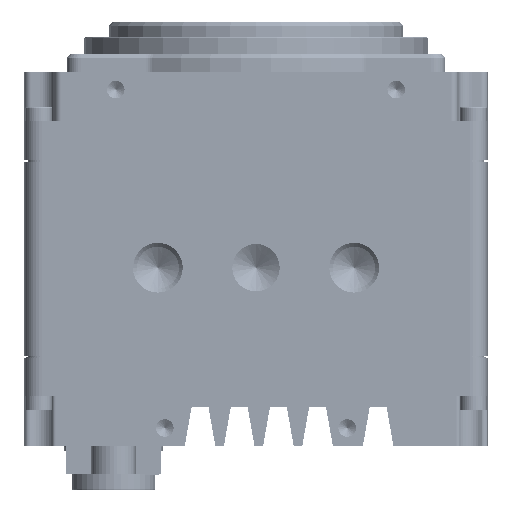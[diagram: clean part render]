
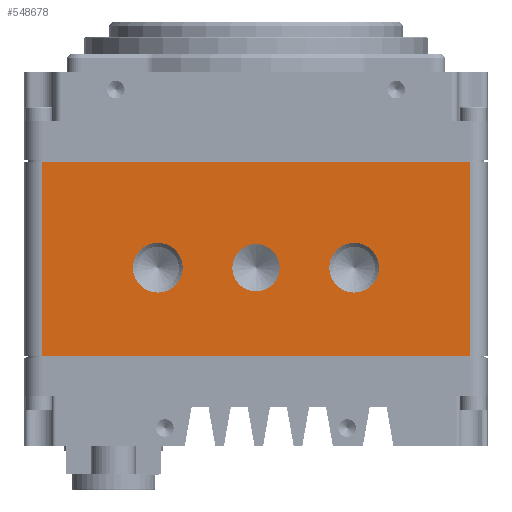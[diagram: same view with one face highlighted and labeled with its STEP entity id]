
A CAD part, front view. The second image highlights one B-rep face of the part: STEP entity #548678.
In plain terms, the highlighted planar face has unit normal (0, -1, 0).
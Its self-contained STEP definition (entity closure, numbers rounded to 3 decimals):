
#3422 = CARTESIAN_POINT ( 'NONE',  ( 0., -26.67, -15.24 ) ) ;
#3465 = CARTESIAN_POINT ( 'NONE',  ( -30.48, -26.67, -27.813 ) ) ;
#3859 = ORIENTED_EDGE ( 'NONE', *, *, #3901, .F. ) ;
#3901 = EDGE_CURVE ( 'NONE', #110485, #129364, #42230, .T. ) ;
#7201 = CIRCLE ( 'NONE', #120838, 3.55 ) ;
#7977 = ORIENTED_EDGE ( 'NONE', *, *, #376206, .F. ) ;
#8306 = DIRECTION ( 'NONE',  ( 0., 0., 1. ) ) ;
#12395 = CARTESIAN_POINT ( 'NONE',  ( 30.48, -26.67, -0.127 ) ) ;
#19131 = EDGE_CURVE ( 'NONE', #316690, #265444, #558611, .T. ) ;
#19356 = VERTEX_POINT ( 'NONE', #3465 ) ;
#34512 = DIRECTION ( 'NONE',  ( 0., -1., 0. ) ) ;
#42230 = CIRCLE ( 'NONE', #105956, 3.378 ) ;
#57743 = CARTESIAN_POINT ( 'NONE',  ( -14., -26.67, -15.24 ) ) ;
#59638 = VECTOR ( 'NONE', #304940, 1000. ) ;
#75476 = VERTEX_POINT ( 'NONE', #593102 ) ;
#80930 = DIRECTION ( 'NONE',  ( 0., 0., 1. ) ) ;
#97962 = CARTESIAN_POINT ( 'NONE',  ( 30.48, -26.67, -27.94 ) ) ;
#103997 = EDGE_LOOP ( 'NONE', ( #552080, #3859 ) ) ;
#105956 = AXIS2_PLACEMENT_3D ( 'NONE', #3422, #216967, #162851 ) ;
#109769 = FACE_OUTER_BOUND ( 'NONE', #660977, .T. ) ;
#110485 = VERTEX_POINT ( 'NONE', #453968 ) ;
#111809 = CIRCLE ( 'NONE', #142666, 3.55 ) ;
#120838 = AXIS2_PLACEMENT_3D ( 'NONE', #57743, #363686, #471622 ) ;
#122349 = LINE ( 'NONE', #464843, #662372 ) ;
#129364 = VERTEX_POINT ( 'NONE', #658372 ) ;
#135209 = ORIENTED_EDGE ( 'NONE', *, *, #423101, .F. ) ;
#137782 = DIRECTION ( 'NONE',  ( 0., 0., 1. ) ) ;
#142666 = AXIS2_PLACEMENT_3D ( 'NONE', #544388, #490429, #80930 ) ;
#162851 = DIRECTION ( 'NONE',  ( 0., 0., 1. ) ) ;
#170262 = AXIS2_PLACEMENT_3D ( 'NONE', #342677, #34512, #137782 ) ;
#173117 = ORIENTED_EDGE ( 'NONE', *, *, #450698, .F. ) ;
#174320 = FACE_BOUND ( 'NONE', #297384, .T. ) ;
#208384 = DIRECTION ( 'NONE',  ( 0., 0., -1. ) ) ;
#211695 = LINE ( 'NONE', #97962, #638473 ) ;
#216612 = EDGE_CURVE ( 'NONE', #19356, #390142, #616637, .T. ) ;
#216967 = DIRECTION ( 'NONE',  ( 0., -1., 0. ) ) ;
#219177 = EDGE_CURVE ( 'NONE', #390142, #265444, #211695, .T. ) ;
#224343 = CARTESIAN_POINT ( 'NONE',  ( 33.02, -26.67, -27.94 ) ) ;
#228787 = AXIS2_PLACEMENT_3D ( 'NONE', #409334, #404912, #485745 ) ;
#229737 = EDGE_CURVE ( 'NONE', #316690, #19356, #122349, .T. ) ;
#246760 = FACE_BOUND ( 'NONE', #103997, .T. ) ;
#258875 = ORIENTED_EDGE ( 'NONE', *, *, #449982, .F. ) ;
#265444 = VERTEX_POINT ( 'NONE', #12395 ) ;
#297384 = EDGE_LOOP ( 'NONE', ( #135209, #258875 ) ) ;
#304940 = DIRECTION ( 'NONE',  ( 1., 0., 0. ) ) ;
#316186 = CARTESIAN_POINT ( 'NONE',  ( -14., -26.67, -11.69 ) ) ;
#316690 = VERTEX_POINT ( 'NONE', #483314 ) ;
#321204 = DIRECTION ( 'NONE',  ( 0., 0., -1. ) ) ;
#339774 = CARTESIAN_POINT ( 'NONE',  ( 30.48, -26.67, -27.813 ) ) ;
#342677 = CARTESIAN_POINT ( 'NONE',  ( 0., -26.67, -15.24 ) ) ;
#347709 = CIRCLE ( 'NONE', #170262, 3.378 ) ;
#363686 = DIRECTION ( 'NONE',  ( 0., -1., 0. ) ) ;
#363775 = DIRECTION ( 'NONE',  ( 0., -1., 0. ) ) ;
#376206 = EDGE_CURVE ( 'NONE', #439081, #380575, #590070, .T. ) ;
#380575 = VERTEX_POINT ( 'NONE', #618226 ) ;
#390142 = VERTEX_POINT ( 'NONE', #618965 ) ;
#404912 = DIRECTION ( 'NONE',  ( 0., -1., 0. ) ) ;
#408491 = DIRECTION ( 'NONE',  ( 0., 0., 1. ) ) ;
#409334 = CARTESIAN_POINT ( 'NONE',  ( 14., -26.67, -15.24 ) ) ;
#422126 = CARTESIAN_POINT ( 'NONE',  ( -14., -26.67, -15.24 ) ) ;
#423101 = EDGE_CURVE ( 'NONE', #476914, #75476, #7201, .T. ) ;
#426861 = PLANE ( 'NONE',  #485108 ) ;
#439081 = VERTEX_POINT ( 'NONE', #568674 ) ;
#443877 = ORIENTED_EDGE ( 'NONE', *, *, #219177, .T. ) ;
#449982 = EDGE_CURVE ( 'NONE', #75476, #476914, #507668, .T. ) ;
#450698 = EDGE_CURVE ( 'NONE', #380575, #439081, #111809, .T. ) ;
#453968 = CARTESIAN_POINT ( 'NONE',  ( 0., -26.67, -18.618 ) ) ;
#461067 = AXIS2_PLACEMENT_3D ( 'NONE', #422126, #363775, #8306 ) ;
#464843 = CARTESIAN_POINT ( 'NONE',  ( -30.48, -26.67, -27.94 ) ) ;
#467329 = ORIENTED_EDGE ( 'NONE', *, *, #19131, .F. ) ;
#471622 = DIRECTION ( 'NONE',  ( 0., 0., 1. ) ) ;
#471970 = DIRECTION ( 'NONE',  ( 0., 1., 0. ) ) ;
#476914 = VERTEX_POINT ( 'NONE', #316186 ) ;
#483314 = CARTESIAN_POINT ( 'NONE',  ( -30.48, -26.67, -0.127 ) ) ;
#485108 = AXIS2_PLACEMENT_3D ( 'NONE', #224343, #471970, #321204 ) ;
#485745 = DIRECTION ( 'NONE',  ( 0., 0., 1. ) ) ;
#490429 = DIRECTION ( 'NONE',  ( 0., -1., 0. ) ) ;
#507668 = CIRCLE ( 'NONE', #461067, 3.55 ) ;
#532786 = ORIENTED_EDGE ( 'NONE', *, *, #229737, .T. ) ;
#544388 = CARTESIAN_POINT ( 'NONE',  ( 14., -26.67, -15.24 ) ) ;
#548678 = ADVANCED_FACE ( 'NONE', ( #174320, #641266, #246760, #109769 ), #426861, .F. ) ;
#552080 = ORIENTED_EDGE ( 'NONE', *, *, #613972, .F. ) ;
#558611 = LINE ( 'NONE', #665026, #59638 ) ;
#568674 = CARTESIAN_POINT ( 'NONE',  ( 14., -26.67, -18.79 ) ) ;
#586587 = ORIENTED_EDGE ( 'NONE', *, *, #216612, .T. ) ;
#590070 = CIRCLE ( 'NONE', #228787, 3.55 ) ;
#593102 = CARTESIAN_POINT ( 'NONE',  ( -14., -26.67, -18.79 ) ) ;
#596336 = DIRECTION ( 'NONE',  ( 1., 0., 0. ) ) ;
#600519 = VECTOR ( 'NONE', #596336, 1000. ) ;
#613972 = EDGE_CURVE ( 'NONE', #129364, #110485, #347709, .T. ) ;
#616637 = LINE ( 'NONE', #339774, #600519 ) ;
#618226 = CARTESIAN_POINT ( 'NONE',  ( 14., -26.67, -11.69 ) ) ;
#618965 = CARTESIAN_POINT ( 'NONE',  ( 30.48, -26.67, -27.813 ) ) ;
#638473 = VECTOR ( 'NONE', #408491, 1000. ) ;
#641266 = FACE_BOUND ( 'NONE', #664406, .T. ) ;
#658372 = CARTESIAN_POINT ( 'NONE',  ( 0., -26.67, -11.862 ) ) ;
#660977 = EDGE_LOOP ( 'NONE', ( #586587, #443877, #467329, #532786 ) ) ;
#662372 = VECTOR ( 'NONE', #208384, 1000. ) ;
#664406 = EDGE_LOOP ( 'NONE', ( #173117, #7977 ) ) ;
#665026 = CARTESIAN_POINT ( 'NONE',  ( 30.48, -26.67, -0.127 ) ) ;
